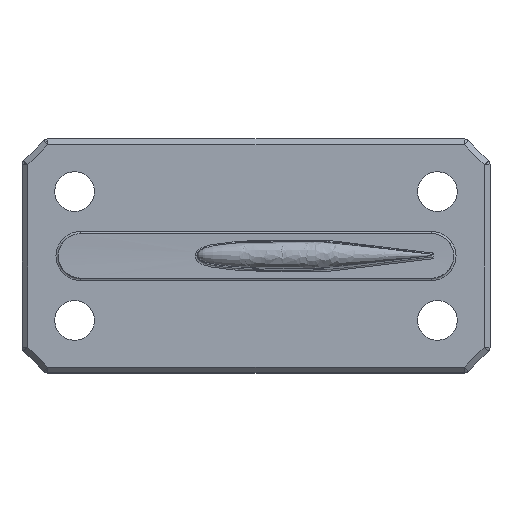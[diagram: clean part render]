
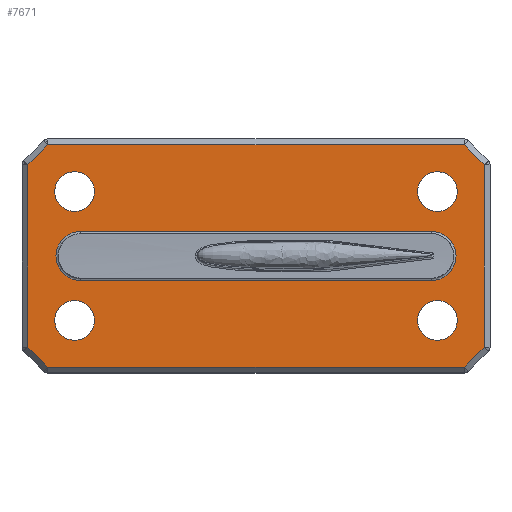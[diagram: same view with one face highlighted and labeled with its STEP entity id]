
A CAD part, top view. The second image highlights one B-rep face of the part: STEP entity #7671.
In plain terms, the highlighted planar face has unit normal (0, 0, 1).
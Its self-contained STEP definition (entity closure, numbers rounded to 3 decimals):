
#47=AXIS2_PLACEMENT_3D('Circle Axis2P3D',#45,#46,$) ;
#1032=AXIS2_PLACEMENT_3D('Circle Axis2P3D',#1030,#1031,$) ;
#1098=AXIS2_PLACEMENT_3D('Circle Axis2P3D',#1096,#1097,$) ;
#1224=AXIS2_PLACEMENT_3D('Circle Axis2P3D',#1222,#1223,$) ;
#5926=AXIS2_PLACEMENT_3D('Circle Axis2P3D',#5924,#5925,$) ;
#5945=AXIS2_PLACEMENT_3D('Circle Axis2P3D',#5943,#5944,$) ;
#5969=AXIS2_PLACEMENT_3D('Circle Axis2P3D',#5967,#5968,$) ;
#5988=AXIS2_PLACEMENT_3D('Circle Axis2P3D',#5986,#5987,$) ;
#6012=AXIS2_PLACEMENT_3D('Circle Axis2P3D',#6010,#6011,$) ;
#6031=AXIS2_PLACEMENT_3D('Circle Axis2P3D',#6029,#6030,$) ;
#7581=AXIS2_PLACEMENT_3D('Plane Axis2P3D',#7578,#7579,#7580) ;
#40=CARTESIAN_POINT('Vertex',(-12.2,-5.5,0.)) ;
#45=CARTESIAN_POINT('Axis2P3D Location',(-10.5,-5.5,0.)) ;
#49=CARTESIAN_POINT('Vertex',(-8.8,-5.5,0.)) ;
#1030=CARTESIAN_POINT('Axis2P3D Location',(-10.5,-5.5,0.)) ;
#1096=CARTESIAN_POINT('Axis2P3D Location',(20.,0.,0.)) ;
#1100=CARTESIAN_POINT('Vertex',(20.,-2.1,0.)) ;
#1102=CARTESIAN_POINT('Vertex',(20.,2.1,0.)) ;
#1158=CARTESIAN_POINT('Line Origine',(5.,2.1,0.)) ;
#1162=CARTESIAN_POINT('Vertex',(-10.,2.1,0.)) ;
#1222=CARTESIAN_POINT('Axis2P3D Location',(-10.,0.,0.)) ;
#1226=CARTESIAN_POINT('Vertex',(-10.,-2.1,0.)) ;
#1268=CARTESIAN_POINT('Line Origine',(5.,-2.1,0.)) ;
#5921=CARTESIAN_POINT('Vertex',(18.8,-5.5,0.)) ;
#5924=CARTESIAN_POINT('Axis2P3D Location',(20.5,-5.5,0.)) ;
#5928=CARTESIAN_POINT('Vertex',(22.2,-5.5,0.)) ;
#5943=CARTESIAN_POINT('Axis2P3D Location',(20.5,-5.5,0.)) ;
#5964=CARTESIAN_POINT('Vertex',(-12.2,5.5,0.)) ;
#5967=CARTESIAN_POINT('Axis2P3D Location',(-10.5,5.5,0.)) ;
#5971=CARTESIAN_POINT('Vertex',(-8.8,5.5,0.)) ;
#5986=CARTESIAN_POINT('Axis2P3D Location',(-10.5,5.5,0.)) ;
#6007=CARTESIAN_POINT('Vertex',(18.8,5.5,0.)) ;
#6010=CARTESIAN_POINT('Axis2P3D Location',(20.5,5.5,0.)) ;
#6014=CARTESIAN_POINT('Vertex',(22.2,5.5,0.)) ;
#6029=CARTESIAN_POINT('Axis2P3D Location',(20.5,5.5,0.)) ;
#7578=CARTESIAN_POINT('Axis2P3D Location',(0.,0.,0.)) ;
#7583=CARTESIAN_POINT('Line Origine',(23.646,-8.646,0.)) ;
#7587=CARTESIAN_POINT('Vertex',(24.5,-7.793,0.)) ;
#7589=CARTESIAN_POINT('Vertex',(22.793,-9.5,0.)) ;
#7592=CARTESIAN_POINT('Line Origine',(24.5,0.,0.)) ;
#7596=CARTESIAN_POINT('Vertex',(24.5,7.793,0.)) ;
#7599=CARTESIAN_POINT('Line Origine',(23.646,8.646,0.)) ;
#7603=CARTESIAN_POINT('Vertex',(22.793,9.5,0.)) ;
#7606=CARTESIAN_POINT('Line Origine',(5.,9.5,0.)) ;
#7610=CARTESIAN_POINT('Vertex',(-12.793,9.5,0.)) ;
#7613=CARTESIAN_POINT('Line Origine',(-13.646,8.646,0.)) ;
#7617=CARTESIAN_POINT('Vertex',(-14.5,7.793,0.)) ;
#7620=CARTESIAN_POINT('Line Origine',(-14.5,0.,0.)) ;
#7624=CARTESIAN_POINT('Vertex',(-14.5,-7.793,0.)) ;
#7627=CARTESIAN_POINT('Line Origine',(-13.646,-8.646,0.)) ;
#7631=CARTESIAN_POINT('Vertex',(-12.793,-9.5,0.)) ;
#7634=CARTESIAN_POINT('Line Origine',(5.,-9.5,0.)) ;
#46=DIRECTION('Axis2P3D Direction',(0.,-0.,1.)) ;
#1031=DIRECTION('Axis2P3D Direction',(0.,-0.,1.)) ;
#1097=DIRECTION('Axis2P3D Direction',(-0.,0.,-1.)) ;
#1159=DIRECTION('Vector Direction',(-1.,0.,0.)) ;
#1223=DIRECTION('Axis2P3D Direction',(0.,-0.,-1.)) ;
#1269=DIRECTION('Vector Direction',(1.,0.,0.)) ;
#5925=DIRECTION('Axis2P3D Direction',(0.,-0.,1.)) ;
#5944=DIRECTION('Axis2P3D Direction',(0.,-0.,1.)) ;
#5968=DIRECTION('Axis2P3D Direction',(0.,-0.,1.)) ;
#5987=DIRECTION('Axis2P3D Direction',(0.,-0.,1.)) ;
#6011=DIRECTION('Axis2P3D Direction',(0.,-0.,1.)) ;
#6030=DIRECTION('Axis2P3D Direction',(0.,-0.,1.)) ;
#7579=DIRECTION('Axis2P3D Direction',(-0.,-0.,-1.)) ;
#7580=DIRECTION('Axis2P3D XDirection',(0.,-1.,0.)) ;
#7584=DIRECTION('Vector Direction',(0.707,0.707,0.)) ;
#7593=DIRECTION('Vector Direction',(0.,1.,0.)) ;
#7600=DIRECTION('Vector Direction',(0.707,-0.707,0.)) ;
#7607=DIRECTION('Vector Direction',(1.,0.,0.)) ;
#7614=DIRECTION('Vector Direction',(-0.707,-0.707,0.)) ;
#7621=DIRECTION('Vector Direction',(0.,-1.,0.)) ;
#7628=DIRECTION('Vector Direction',(0.707,-0.707,0.)) ;
#7635=DIRECTION('Vector Direction',(-1.,0.,0.)) ;
#1160=VECTOR('Line Direction',#1159,1.) ;
#1270=VECTOR('Line Direction',#1269,1.) ;
#7585=VECTOR('Line Direction',#7584,1.) ;
#7594=VECTOR('Line Direction',#7593,1.) ;
#7601=VECTOR('Line Direction',#7600,1.) ;
#7608=VECTOR('Line Direction',#7607,1.) ;
#7615=VECTOR('Line Direction',#7614,1.) ;
#7622=VECTOR('Line Direction',#7621,1.) ;
#7629=VECTOR('Line Direction',#7628,1.) ;
#7636=VECTOR('Line Direction',#7635,1.) ;
#7640=ORIENTED_EDGE('',*,*,#7591,.F.) ;
#7641=ORIENTED_EDGE('',*,*,#7598,.F.) ;
#7642=ORIENTED_EDGE('',*,*,#7605,.F.) ;
#7643=ORIENTED_EDGE('',*,*,#7612,.F.) ;
#7644=ORIENTED_EDGE('',*,*,#7619,.F.) ;
#7645=ORIENTED_EDGE('',*,*,#7626,.F.) ;
#7646=ORIENTED_EDGE('',*,*,#7633,.F.) ;
#7647=ORIENTED_EDGE('',*,*,#7638,.F.) ;
#7650=ORIENTED_EDGE('',*,*,#1104,.F.) ;
#7651=ORIENTED_EDGE('',*,*,#1272,.F.) ;
#7652=ORIENTED_EDGE('',*,*,#1228,.F.) ;
#7653=ORIENTED_EDGE('',*,*,#1164,.F.) ;
#7656=ORIENTED_EDGE('',*,*,#51,.T.) ;
#7657=ORIENTED_EDGE('',*,*,#1034,.T.) ;
#7660=ORIENTED_EDGE('',*,*,#5947,.T.) ;
#7661=ORIENTED_EDGE('',*,*,#5930,.T.) ;
#7664=ORIENTED_EDGE('',*,*,#5990,.T.) ;
#7665=ORIENTED_EDGE('',*,*,#5973,.T.) ;
#7668=ORIENTED_EDGE('',*,*,#6033,.T.) ;
#7669=ORIENTED_EDGE('',*,*,#6016,.T.) ;
#7654=FACE_BOUND('',#7649,.T.) ;
#7658=FACE_BOUND('',#7655,.T.) ;
#7662=FACE_BOUND('',#7659,.T.) ;
#7666=FACE_BOUND('',#7663,.T.) ;
#7670=FACE_BOUND('',#7667,.T.) ;
#7671=ADVANCED_FACE('Corps principal',(#7648,#7654,#7658,#7662,#7666,#7670),#7582,.F.) ;
#48=CIRCLE('generated circle',#47,1.7) ;
#1033=CIRCLE('generated circle',#1032,1.7) ;
#1099=CIRCLE('generated circle',#1098,2.1) ;
#1225=CIRCLE('generated circle',#1224,2.1) ;
#5927=CIRCLE('generated circle',#5926,1.7) ;
#5946=CIRCLE('generated circle',#5945,1.7) ;
#5970=CIRCLE('generated circle',#5969,1.7) ;
#5989=CIRCLE('generated circle',#5988,1.7) ;
#6013=CIRCLE('generated circle',#6012,1.7) ;
#6032=CIRCLE('generated circle',#6031,1.7) ;
#51=EDGE_CURVE('',#50,#41,#48,.F.) ;
#1034=EDGE_CURVE('',#41,#50,#1033,.F.) ;
#1104=EDGE_CURVE('',#1101,#1103,#1099,.F.) ;
#1164=EDGE_CURVE('',#1103,#1163,#1161,.T.) ;
#1228=EDGE_CURVE('',#1163,#1227,#1225,.F.) ;
#1272=EDGE_CURVE('',#1227,#1101,#1271,.T.) ;
#5930=EDGE_CURVE('',#5929,#5922,#5927,.F.) ;
#5947=EDGE_CURVE('',#5922,#5929,#5946,.F.) ;
#5973=EDGE_CURVE('',#5972,#5965,#5970,.F.) ;
#5990=EDGE_CURVE('',#5965,#5972,#5989,.F.) ;
#6016=EDGE_CURVE('',#6015,#6008,#6013,.F.) ;
#6033=EDGE_CURVE('',#6008,#6015,#6032,.F.) ;
#7591=EDGE_CURVE('',#7588,#7590,#7586,.F.) ;
#7598=EDGE_CURVE('',#7597,#7588,#7595,.F.) ;
#7605=EDGE_CURVE('',#7604,#7597,#7602,.T.) ;
#7612=EDGE_CURVE('',#7611,#7604,#7609,.T.) ;
#7619=EDGE_CURVE('',#7618,#7611,#7616,.F.) ;
#7626=EDGE_CURVE('',#7625,#7618,#7623,.F.) ;
#7633=EDGE_CURVE('',#7632,#7625,#7630,.F.) ;
#7638=EDGE_CURVE('',#7590,#7632,#7637,.T.) ;
#7639=EDGE_LOOP('',(#7640,#7641,#7642,#7643,#7644,#7645,#7646,#7647)) ;
#7649=EDGE_LOOP('',(#7650,#7651,#7652,#7653)) ;
#7655=EDGE_LOOP('',(#7656,#7657)) ;
#7659=EDGE_LOOP('',(#7660,#7661)) ;
#7663=EDGE_LOOP('',(#7664,#7665)) ;
#7667=EDGE_LOOP('',(#7668,#7669)) ;
#7648=FACE_OUTER_BOUND('',#7639,.T.) ;
#1161=LINE('Line',#1158,#1160) ;
#1271=LINE('Line',#1268,#1270) ;
#7586=LINE('Line',#7583,#7585) ;
#7595=LINE('Line',#7592,#7594) ;
#7602=LINE('Line',#7599,#7601) ;
#7609=LINE('Line',#7606,#7608) ;
#7616=LINE('Line',#7613,#7615) ;
#7623=LINE('Line',#7620,#7622) ;
#7630=LINE('Line',#7627,#7629) ;
#7637=LINE('Line',#7634,#7636) ;
#7582=PLANE('',#7581) ;
#41=VERTEX_POINT('',#40) ;
#50=VERTEX_POINT('',#49) ;
#1101=VERTEX_POINT('',#1100) ;
#1103=VERTEX_POINT('',#1102) ;
#1163=VERTEX_POINT('',#1162) ;
#1227=VERTEX_POINT('',#1226) ;
#5922=VERTEX_POINT('',#5921) ;
#5929=VERTEX_POINT('',#5928) ;
#5965=VERTEX_POINT('',#5964) ;
#5972=VERTEX_POINT('',#5971) ;
#6008=VERTEX_POINT('',#6007) ;
#6015=VERTEX_POINT('',#6014) ;
#7588=VERTEX_POINT('',#7587) ;
#7590=VERTEX_POINT('',#7589) ;
#7597=VERTEX_POINT('',#7596) ;
#7604=VERTEX_POINT('',#7603) ;
#7611=VERTEX_POINT('',#7610) ;
#7618=VERTEX_POINT('',#7617) ;
#7625=VERTEX_POINT('',#7624) ;
#7632=VERTEX_POINT('',#7631) ;
